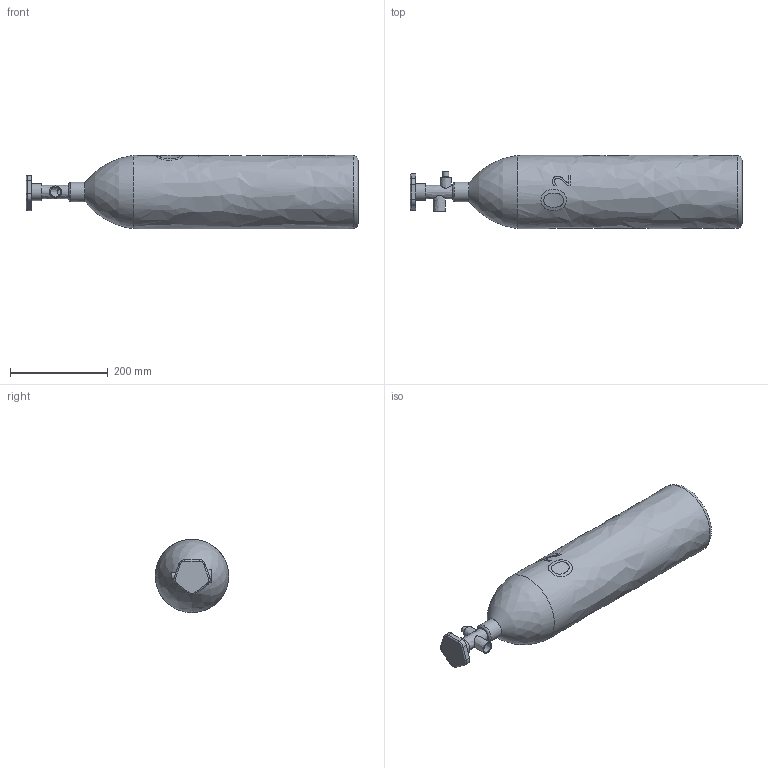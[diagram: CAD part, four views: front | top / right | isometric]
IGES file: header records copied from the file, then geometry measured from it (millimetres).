
Global section: file name: Oxygen bottle; native system: Autodesk Inventor 2017; preprocessor: unknown; author: user; date: 20200330.183438; units: millimetre
Bounding box: 681 x 150 x 150.1 mm (x, y, z)
Volume: 852524.3 mm3; surface area: 574694.4 mm2
Topology: 1 solids, 1 shells, 99 faces, 238 edges, 157 vertices
Faces by surface type: bspline 99
